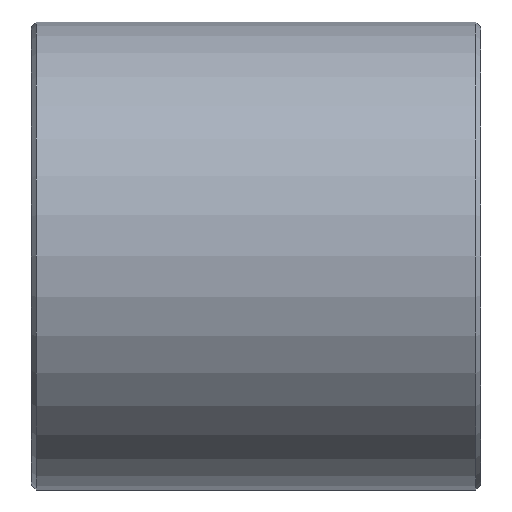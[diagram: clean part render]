
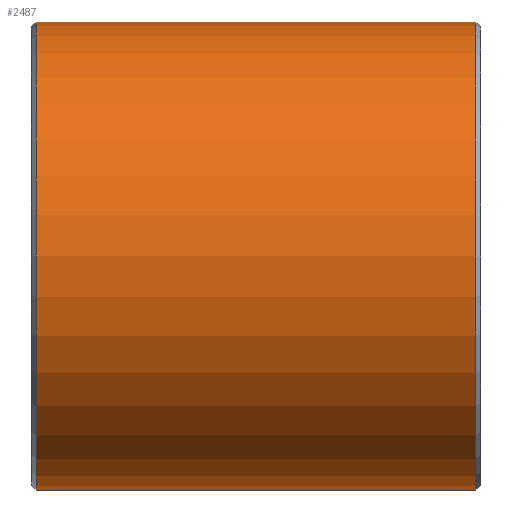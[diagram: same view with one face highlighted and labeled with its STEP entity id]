
A CAD part, front view. The second image highlights one B-rep face of the part: STEP entity #2487.
In plain terms, the highlighted cylindrical face has radius 25 mm (diameter 50 mm), a partial arc.
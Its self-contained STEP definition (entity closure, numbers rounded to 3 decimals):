
#82=DIRECTION('',(1.,0.,0.));
#83=VECTOR('',#82,47.);
#84=CARTESIAN_POINT('',(-23.5,0.,
-25.));
#85=LINE('',#84,#83);
#131=CARTESIAN_POINT('',(23.5,0.,0.));
#132=DIRECTION('',(1.,0.,0.));
#133=DIRECTION('',(0.,0.,1.));
#134=AXIS2_PLACEMENT_3D('',#131,#132,#133);
#136=CARTESIAN_POINT('',(-23.5,0.,0.));
#137=DIRECTION('',(-1.,0.,0.));
#138=DIRECTION('',(0.,0.,-1.));
#139=AXIS2_PLACEMENT_3D('',#136,#137,#138);
#141=DIRECTION('',(1.,0.,0.));
#142=VECTOR('',#141,47.);
#143=CARTESIAN_POINT('',(-23.5,0.,
25.));
#144=LINE('',#143,#142);
#2356=CARTESIAN_POINT('',(23.5,0.,25.));
#2357=CARTESIAN_POINT('',(23.5,0.,-25.));
#2358=VERTEX_POINT('',#2356);
#2359=VERTEX_POINT('',#2357);
#2364=CARTESIAN_POINT('',(-23.5,0.,-25.));
#2365=CARTESIAN_POINT('',(-23.5,0.,25.));
#2366=VERTEX_POINT('',#2364);
#2367=VERTEX_POINT('',#2365);
#2476=CARTESIAN_POINT('',(-24.,0.,0.));
#2477=DIRECTION('',(1.,0.,0.));
#2478=DIRECTION('',(0.,0.,-1.));
#2479=AXIS2_PLACEMENT_3D('',#2476,#2477,#2478);
#2480=CYLINDRICAL_SURFACE('',#2479,25.);
#2481=ORIENTED_EDGE('',*,*,#2470,.T.);
#2482=ORIENTED_EDGE('',*,*,#2424,.F.);
#2483=ORIENTED_EDGE('',*,*,#2394,.T.);
#2484=ORIENTED_EDGE('',*,*,#2421,.T.);
#2485=EDGE_LOOP('',(#2481,#2482,#2483,#2484));
#2486=FACE_OUTER_BOUND('',#2485,.F.);
#2487=ADVANCED_FACE('',(#2486),#2480,.T.);
#135=CIRCLE('',#134,25.);
#140=CIRCLE('',#139,25.);
#2394=EDGE_CURVE('',#2366,#2367,#140,.T.);
#2421=EDGE_CURVE('',#2367,#2358,#144,.T.);
#2424=EDGE_CURVE('',#2366,#2359,#85,.T.);
#2470=EDGE_CURVE('',#2358,#2359,#135,.T.);
